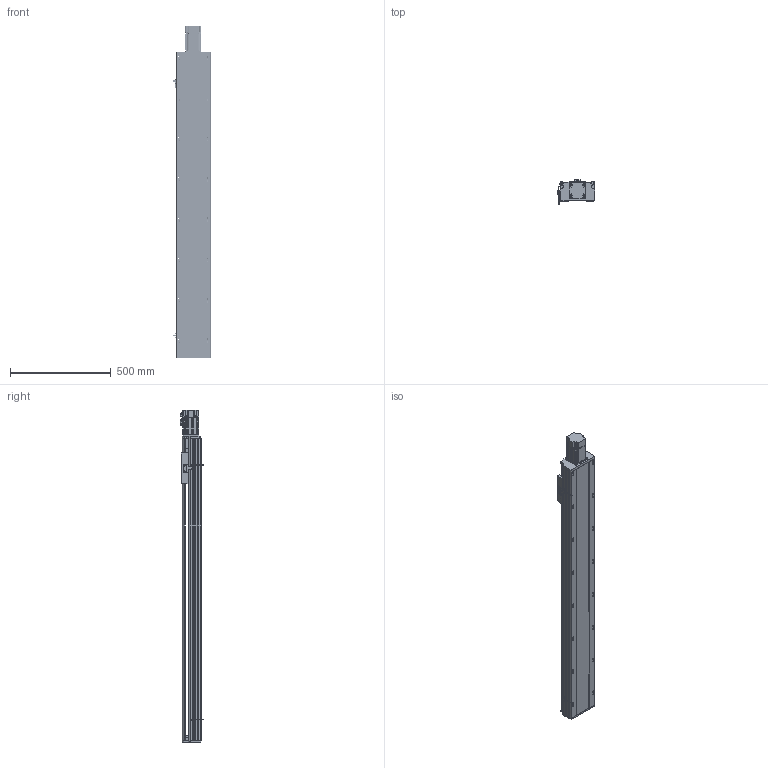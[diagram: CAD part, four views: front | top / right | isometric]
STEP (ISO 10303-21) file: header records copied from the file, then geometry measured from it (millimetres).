
FILE_DESCRIPTION (( 'STEP AP214' ), '1' );
FILE_NAME ('CTH170-1250.STEP', '2019-11-25T09:05:35', ( '微软用户' ), ( '微软中国' ), 'SwSTEP 2.0', 'SolidWorks 2017', '' );
FILE_SCHEMA (( 'AUTOMOTIVE_DESIGN' ));
Length unit declared in the file: millimetre
Products named in the file (32): B6002Z; _C-BSST2005_n; SFS2005-411-SZC; SFH2010佪裝; M3-L8囀鞠褒蹟佪; 80EMA-016A; EE-SX672峚倰換覜ん; 170萇儂啣; CT17耀郪-覜茼んえ; 170傷啣; M6-L20囀鞠褒蹟佪; EGH20CA; 蚾饜极3^CTH170-L10-200; M5-L20囀鞠褒蹟佪-BR L; M4-L10囀鞠褒蹟佪-BR L; M5-L10囀鞠褒蹟佪; 坶踡蹟簽M15x1; EGH20CA_BLOCK; 潔路遠COL15-A; EG20_RAIL; MISUMI_B7002-DB_盄俶絳砃粣; 170賑怢; BEARING_MISUMI_B7002-DB_盄俶絳砃粣; 170裔啣^CTH170-L10-200; 錨璃8^蚾饜极3_CTH170-L10-200; 錨璃2; 复件 轴承座^装配体3_CTH170-L10-200; 佪話盓傅釱^CTH170-L10-200; CTH170-1250; M5-L16囀鞠褒蹟佪; 遣喳蝶15x12x8-BR L; 支撑座^丝杠支撑座_CTH170-L10-200
Assembly tree (79 placements, depth 4):
  CTH170-1250
    錨璃2
    170裔啣^CTH170-L10-200
    170賑怢
    EGH20CA  x2
      EG20_RAIL
      EGH20CA_BLOCK
      M5-L10囀鞠褒蹟佪
      M5-L20囀鞠褒蹟佪-BR L
    170傷啣
    170萇儂啣
    80EMA-016A
    SFS2005-411-SZC
      SFH2010佪裝
    _C-BSST2005_n
    佪話盓傅釱^CTH170-L10-200
      B6002Z
      支撑座^丝杠支撑座_CTH170-L10-200
      遣喳蝶15x12x8-BR L  x2
      M5-L16囀鞠褒蹟佪  x2
    蚾饜极3^CTH170-L10-200
      复件 轴承座^装配体3_CTH170-L10-200
      錨璃8^蚾饜极3_CTH170-L10-200
      MISUMI_B7002-DB_盄俶絳砃粣
        BEARING_MISUMI_B7002-DB_盄俶絳砃粣  x2
      潔路遠COL15-A  x2
      坶踡蹟簽M15x1
      M5-L16囀鞠褒蹟佪  x6
      M4-L10囀鞠褒蹟佪-BR L  x4
    遣喳蝶15x12x8-BR L  x2
    M6-L20囀鞠褒蹟佪  x4
    M4-L10囀鞠褒蹟佪-BR L  x10
    M5-L16囀鞠褒蹟佪  x4
    CT17耀郪-覜茼んえ
    EE-SX672峚倰換覜ん  x2
    M3-L8囀鞠褒蹟佪  x4
Bounding box: 183.7 x 117.95 x 1646 mm (x, y, z)
Volume: 9019742.9 mm3; surface area: 2856572.7 mm2
Topology: 91 solids, 92 shells, 5891 faces, 15545 edges, 9898 vertices
Faces by surface type: plane 3162, cylinder 1674, cone 673, bspline 342, torus 40
Entity records: 107782 total; most frequent: CARTESIAN_POINT 22823, ORIENTED_EDGE 15520, DIRECTION 15207, EDGE_CURVE 7760, AXIS2_PLACEMENT_3D 5364, VERTEX_POINT 5046, VECTOR 4479, LINE 4479
